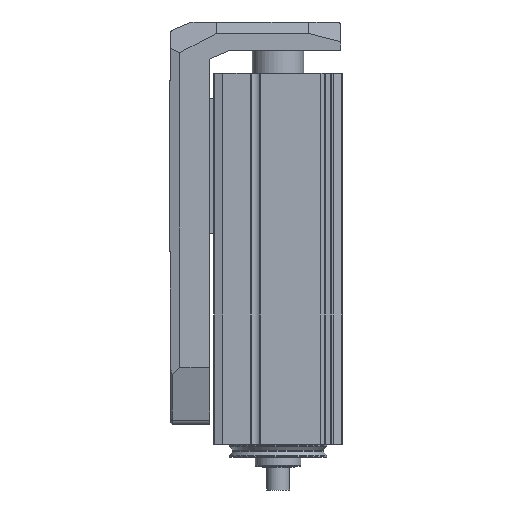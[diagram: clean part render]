
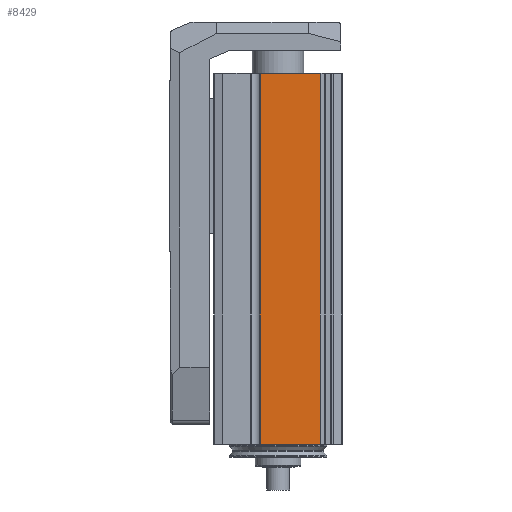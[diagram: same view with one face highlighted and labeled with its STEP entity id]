
A CAD part, left-side view. The second image highlights one B-rep face of the part: STEP entity #8429.
In plain terms, the highlighted planar face has unit normal (-1, 0, 0) as drawn and (0, 0, 1) by its records, which use the part's own axes.
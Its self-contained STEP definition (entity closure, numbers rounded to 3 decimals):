
#773=LINE('',#13561,#1303);
#789=LINE('',#13607,#1319);
#790=LINE('',#13611,#1320);
#791=LINE('',#13613,#1321);
#1303=VECTOR('',#10859,1000.);
#1319=VECTOR('',#10905,1000.);
#1320=VECTOR('',#10910,1000.);
#1321=VECTOR('',#10911,1000.);
#2647=ORIENTED_EDGE('',*,*,#4217,.T.);
#2648=ORIENTED_EDGE('',*,*,#4242,.F.);
#2649=ORIENTED_EDGE('',*,*,#4243,.F.);
#2650=ORIENTED_EDGE('',*,*,#4240,.T.);
#4217=EDGE_CURVE('',#5077,#5076,#773,.T.);
#4240=EDGE_CURVE('',#5092,#5077,#789,.T.);
#4242=EDGE_CURVE('',#5093,#5076,#790,.T.);
#4243=EDGE_CURVE('',#5092,#5093,#791,.T.);
#5076=VERTEX_POINT('',#13560);
#5077=VERTEX_POINT('',#13562);
#5092=VERTEX_POINT('',#13608);
#5093=VERTEX_POINT('',#13612);
#6009=EDGE_LOOP('',(#2647,#2648,#2649,#2650));
#6621=FACE_BOUND('',#6009,.T.);
#6947=PLANE('',#9134);
#8429=ADVANCED_FACE('',(#6621),#6947,.F.);
#9134=AXIS2_PLACEMENT_3D('',#13610,#10908,#10909);
#10859=DIRECTION('',(0.,-1.,0.));
#10905=DIRECTION('',(-1.,0.,0.));
#10908=DIRECTION('',(0.,0.,-1.));
#10909=DIRECTION('',(-1.,0.,0.));
#10910=DIRECTION('',(-1.,0.,0.));
#10911=DIRECTION('',(0.,-1.,0.));
#13560=CARTESIAN_POINT('',(0.,-6.3,22.5));
#13561=CARTESIAN_POINT('',(0.,14.82,22.5));
#13562=CARTESIAN_POINT('',(0.,14.82,22.5));
#13607=CARTESIAN_POINT('',(130.,14.82,22.5));
#13608=CARTESIAN_POINT('',(130.,14.82,22.5));
#13610=CARTESIAN_POINT('',(130.,14.82,22.5));
#13611=CARTESIAN_POINT('',(130.,-6.3,22.5));
#13612=CARTESIAN_POINT('',(130.,-6.3,22.5));
#13613=CARTESIAN_POINT('',(130.,14.82,22.5));
